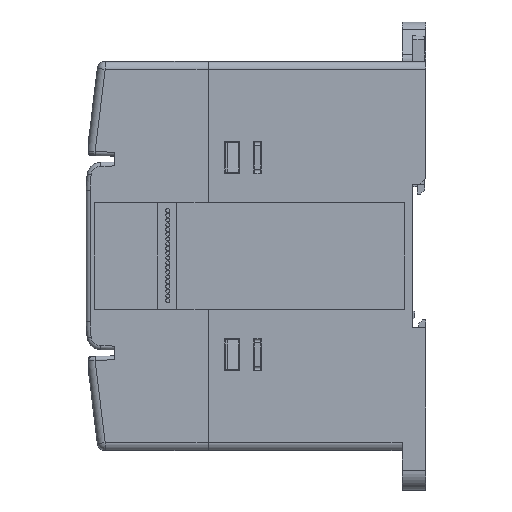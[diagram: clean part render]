
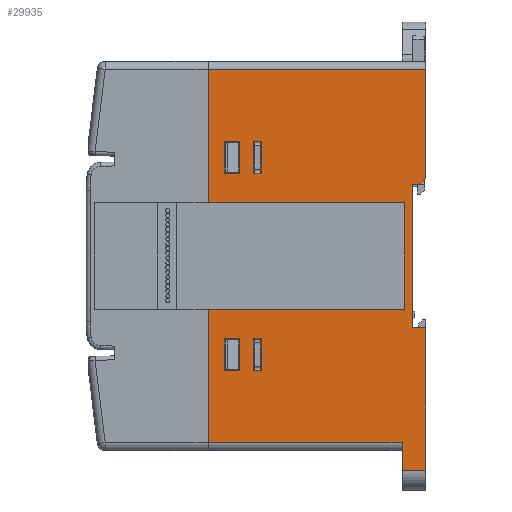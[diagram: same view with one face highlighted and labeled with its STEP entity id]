
A CAD part, left-side view. The second image highlights one B-rep face of the part: STEP entity #29935.
In plain terms, the highlighted planar face has unit normal (-1, 0, 0).
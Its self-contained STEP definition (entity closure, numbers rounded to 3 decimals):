
#50=DIRECTION('',(0.,0.,1.));
#51=VECTOR('',#50,33.75);
#52=CARTESIAN_POINT('',(-32.,51.7,-47.25));
#53=LINE('',#52,#51);
#86=DIRECTION('',(0.,0.,1.));
#87=VECTOR('',#86,33.75);
#88=CARTESIAN_POINT('',(-32.,51.7,13.5));
#89=LINE('',#88,#87);
#2996=DIRECTION('',(0.,-1.,0.));
#2997=VECTOR('',#2996,1.8);
#2998=CARTESIAN_POINT('',(-32.,0.,18.15));
#2999=LINE('',#2998,#2997);
#3623=DIRECTION('',(0.,0.,-1.));
#3624=VECTOR('',#3623,27.6);
#3625=CARTESIAN_POINT('',(-32.,-3.3,47.25));
#3626=LINE('',#3625,#3624);
#3956=DIRECTION('',(0.,-1.,0.));
#3957=VECTOR('',#3956,3.8);
#3958=CARTESIAN_POINT('',(-32.,47.55,-29.));
#3959=LINE('',#3958,#3957);
#3960=DIRECTION('',(0.,0.,1.));
#3961=VECTOR('',#3960,8.);
#3962=CARTESIAN_POINT('',(-32.,43.75,-29.));
#3963=LINE('',#3962,#3961);
#3964=DIRECTION('',(0.,1.,0.));
#3965=VECTOR('',#3964,3.8);
#3966=CARTESIAN_POINT('',(-32.,43.75,-21.));
#3967=LINE('',#3966,#3965);
#3968=DIRECTION('',(0.,0.,-1.));
#3969=VECTOR('',#3968,8.);
#3970=CARTESIAN_POINT('',(-32.,47.55,-21.));
#3971=LINE('',#3970,#3969);
#3972=DIRECTION('',(0.,0.,-1.));
#3973=VECTOR('',#3972,8.);
#3974=CARTESIAN_POINT('',(-32.,47.55,29.));
#3975=LINE('',#3974,#3973);
#3976=DIRECTION('',(0.,-1.,0.));
#3977=VECTOR('',#3976,3.8);
#3978=CARTESIAN_POINT('',(-32.,47.55,21.));
#3979=LINE('',#3978,#3977);
#3980=DIRECTION('',(0.,0.,1.));
#3981=VECTOR('',#3980,8.);
#3982=CARTESIAN_POINT('',(-32.,43.75,21.));
#3983=LINE('',#3982,#3981);
#3984=DIRECTION('',(0.,1.,0.));
#3985=VECTOR('',#3984,3.8);
#3986=CARTESIAN_POINT('',(-32.,43.75,29.));
#3987=LINE('',#3986,#3985);
#3988=DIRECTION('',(0.,0.,-1.));
#3989=VECTOR('',#3988,8.);
#3990=CARTESIAN_POINT('',(-32.,38.3,29.));
#3991=LINE('',#3990,#3989);
#3992=DIRECTION('',(0.,-1.,0.));
#3993=VECTOR('',#3992,2.);
#3994=CARTESIAN_POINT('',(-32.,40.3,29.));
#3995=LINE('',#3994,#3993);
#3996=DIRECTION('',(0.,0.,1.));
#3997=VECTOR('',#3996,8.);
#3998=CARTESIAN_POINT('',(-32.,40.3,21.));
#3999=LINE('',#3998,#3997);
#4000=DIRECTION('',(0.,1.,0.));
#4001=VECTOR('',#4000,2.);
#4002=CARTESIAN_POINT('',(-32.,38.3,21.));
#4003=LINE('',#4002,#4001);
#4004=DIRECTION('',(0.,0.,1.));
#4005=VECTOR('',#4004,8.);
#4006=CARTESIAN_POINT('',(-32.,40.3,-29.));
#4007=LINE('',#4006,#4005);
#4008=DIRECTION('',(0.,1.,0.));
#4009=VECTOR('',#4008,2.);
#4010=CARTESIAN_POINT('',(-32.,38.3,-29.));
#4011=LINE('',#4010,#4009);
#4012=DIRECTION('',(0.,0.,-1.));
#4013=VECTOR('',#4012,8.);
#4014=CARTESIAN_POINT('',(-32.,38.3,-21.));
#4015=LINE('',#4014,#4013);
#4016=DIRECTION('',(0.,-1.,0.));
#4017=VECTOR('',#4016,2.);
#4018=CARTESIAN_POINT('',(-32.,40.3,-21.));
#4019=LINE('',#4018,#4017);
#4020=DIRECTION('',(0.,-0.707,0.707));
#4021=VECTOR('',#4020,2.121);
#4022=CARTESIAN_POINT('',(-32.,-1.8,18.15));
#4023=LINE('',#4022,#4021);
#4024=DIRECTION('',(0.,0.,-1.));
#4025=VECTOR('',#4024,36.3);
#4026=CARTESIAN_POINT('',(-32.,0.,18.15));
#4027=LINE('',#4026,#4025);
#4028=DIRECTION('',(0.,-1.,0.));
#4029=VECTOR('',#4028,3.3);
#4030=CARTESIAN_POINT('',(-32.,0.,-18.15));
#4031=LINE('',#4030,#4029);
#4032=DIRECTION('',(0.,0.,-1.));
#4033=VECTOR('',#4032,36.1);
#4034=CARTESIAN_POINT('',(-32.,-3.3,-18.15));
#4035=LINE('',#4034,#4033);
#4036=DIRECTION('',(0.,-1.,0.));
#4037=VECTOR('',#4036,49.);
#4038=CARTESIAN_POINT('',(-32.,51.7,-47.25));
#4039=LINE('',#4038,#4037);
#4040=DIRECTION('',(0.,-1.,0.));
#4041=VECTOR('',#4040,49.7);
#4042=CARTESIAN_POINT('',(-32.,51.7,-13.5));
#4043=LINE('',#4042,#4041);
#4044=DIRECTION('',(0.,0.,1.));
#4045=VECTOR('',#4044,27.);
#4046=CARTESIAN_POINT('',(-32.,2.,-13.5));
#4047=LINE('',#4046,#4045);
#4048=DIRECTION('',(0.,-1.,0.));
#4049=VECTOR('',#4048,49.7);
#4050=CARTESIAN_POINT('',(-32.,51.7,13.5));
#4051=LINE('',#4050,#4049);
#4052=DIRECTION('',(0.,-1.,0.));
#4053=VECTOR('',#4052,55.);
#4054=CARTESIAN_POINT('',(-32.,51.7,47.25));
#4055=LINE('',#4054,#4053);
#7423=DIRECTION('',(0.,-1.,0.));
#7424=VECTOR('',#7423,6.);
#7425=CARTESIAN_POINT('',(-32.,2.7,-54.25));
#7426=LINE('',#7425,#7424);
#7466=DIRECTION('',(0.,0.,-1.));
#7467=VECTOR('',#7466,7.);
#7468=CARTESIAN_POINT('',(-32.,2.7,-47.25));
#7469=LINE('',#7468,#7467);
#19977=CARTESIAN_POINT('',(-32.,51.7,-47.25));
#19978=VERTEX_POINT('',#19977);
#19979=CARTESIAN_POINT('',(-32.,2.7,-47.25));
#19980=VERTEX_POINT('',#19979);
#19985=CARTESIAN_POINT('',(-32.,51.7,47.25));
#19987=VERTEX_POINT('',#19985);
#20018=CARTESIAN_POINT('',(-32.,2.7,-54.25));
#20020=VERTEX_POINT('',#20018);
#20022=CARTESIAN_POINT('',(-32.,-3.3,47.25));
#20024=VERTEX_POINT('',#20022);
#20047=CARTESIAN_POINT('',(-32.,0.,18.15));
#20048=CARTESIAN_POINT('',(-32.,0.,-18.15));
#20049=VERTEX_POINT('',#20047);
#20050=VERTEX_POINT('',#20048);
#20063=CARTESIAN_POINT('',(-32.,-3.3,-18.15));
#20064=VERTEX_POINT('',#20063);
#20081=CARTESIAN_POINT('',(-32.,-3.3,-54.25));
#20083=VERTEX_POINT('',#20081);
#20401=CARTESIAN_POINT('',(-32.,47.55,-29.));
#20402=CARTESIAN_POINT('',(-32.,43.75,-29.));
#20403=VERTEX_POINT('',#20401);
#20404=VERTEX_POINT('',#20402);
#20405=CARTESIAN_POINT('',(-32.,43.75,-21.));
#20406=VERTEX_POINT('',#20405);
#20407=CARTESIAN_POINT('',(-32.,47.55,-21.));
#20408=VERTEX_POINT('',#20407);
#20409=CARTESIAN_POINT('',(-32.,47.55,29.));
#20410=CARTESIAN_POINT('',(-32.,47.55,21.));
#20411=VERTEX_POINT('',#20409);
#20412=VERTEX_POINT('',#20410);
#20413=CARTESIAN_POINT('',(-32.,43.75,21.));
#20414=VERTEX_POINT('',#20413);
#20415=CARTESIAN_POINT('',(-32.,43.75,29.));
#20416=VERTEX_POINT('',#20415);
#20537=CARTESIAN_POINT('',(-32.,51.7,13.5));
#20538=CARTESIAN_POINT('',(-32.,2.,13.5));
#20539=VERTEX_POINT('',#20537);
#20540=VERTEX_POINT('',#20538);
#20541=CARTESIAN_POINT('',(-32.,51.7,-13.5));
#20542=CARTESIAN_POINT('',(-32.,2.,-13.5));
#20543=VERTEX_POINT('',#20541);
#20544=VERTEX_POINT('',#20542);
#20545=CARTESIAN_POINT('',(-32.,38.3,29.));
#20546=CARTESIAN_POINT('',(-32.,38.3,21.));
#20547=VERTEX_POINT('',#20545);
#20548=VERTEX_POINT('',#20546);
#20549=CARTESIAN_POINT('',(-32.,40.3,21.));
#20550=VERTEX_POINT('',#20549);
#20551=CARTESIAN_POINT('',(-32.,40.3,29.));
#20552=VERTEX_POINT('',#20551);
#20553=CARTESIAN_POINT('',(-32.,40.3,-29.));
#20554=CARTESIAN_POINT('',(-32.,40.3,-21.));
#20555=VERTEX_POINT('',#20553);
#20556=VERTEX_POINT('',#20554);
#20557=CARTESIAN_POINT('',(-32.,38.3,-21.));
#20558=VERTEX_POINT('',#20557);
#20559=CARTESIAN_POINT('',(-32.,38.3,-29.));
#20560=VERTEX_POINT('',#20559);
#20949=CARTESIAN_POINT('',(-32.,-1.8,18.15));
#20950=VERTEX_POINT('',#20949);
#20951=CARTESIAN_POINT('',(-32.,-3.3,19.65));
#20952=VERTEX_POINT('',#20951);
#29865=CARTESIAN_POINT('',(-32.,0.,-49.25));
#29866=DIRECTION('',(-1.,0.,0.));
#29867=DIRECTION('',(0.,0.,1.));
#29868=AXIS2_PLACEMENT_3D('',#29865,#29866,#29867);
#29869=PLANE('',#29868);
#29871=ORIENTED_EDGE('',*,*,#29870,.F.);
#29872=ORIENTED_EDGE('',*,*,#28964,.F.);
#29873=ORIENTED_EDGE('',*,*,#29167,.T.);
#29875=ORIENTED_EDGE('',*,*,#29874,.T.);
#29876=ORIENTED_EDGE('',*,*,#29385,.T.);
#29878=ORIENTED_EDGE('',*,*,#29877,.F.);
#29880=ORIENTED_EDGE('',*,*,#29879,.F.);
#29882=ORIENTED_EDGE('',*,*,#29881,.F.);
#29883=ORIENTED_EDGE('',*,*,#25803,.T.);
#29885=ORIENTED_EDGE('',*,*,#29884,.T.);
#29887=ORIENTED_EDGE('',*,*,#29886,.T.);
#29889=ORIENTED_EDGE('',*,*,#29888,.F.);
#29890=ORIENTED_EDGE('',*,*,#25819,.T.);
#29892=ORIENTED_EDGE('',*,*,#29891,.T.);
#29893=ORIENTED_EDGE('',*,*,#29564,.T.);
#29894=EDGE_LOOP('',(#29871,#29872,#29873,#29875,#29876,#29878,#29880,#29882,
#29883,#29885,#29887,#29889,#29890,#29892,#29893));
#29895=FACE_OUTER_BOUND('',#29894,.F.);
#29897=ORIENTED_EDGE('',*,*,#29896,.T.);
#29899=ORIENTED_EDGE('',*,*,#29898,.T.);
#29901=ORIENTED_EDGE('',*,*,#29900,.T.);
#29903=ORIENTED_EDGE('',*,*,#29902,.T.);
#29904=EDGE_LOOP('',(#29897,#29899,#29901,#29903));
#29905=FACE_BOUND('',#29904,.F.);
#29906=ORIENTED_EDGE('',*,*,#29839,.F.);
#29908=ORIENTED_EDGE('',*,*,#29907,.F.);
#29910=ORIENTED_EDGE('',*,*,#29909,.F.);
#29912=ORIENTED_EDGE('',*,*,#29911,.F.);
#29913=EDGE_LOOP('',(#29906,#29908,#29910,#29912));
#29914=FACE_BOUND('',#29913,.F.);
#29916=ORIENTED_EDGE('',*,*,#29915,.F.);
#29918=ORIENTED_EDGE('',*,*,#29917,.F.);
#29920=ORIENTED_EDGE('',*,*,#29919,.F.);
#29922=ORIENTED_EDGE('',*,*,#29921,.F.);
#29923=EDGE_LOOP('',(#29916,#29918,#29920,#29922));
#29924=FACE_BOUND('',#29923,.F.);
#29926=ORIENTED_EDGE('',*,*,#29925,.T.);
#29928=ORIENTED_EDGE('',*,*,#29927,.T.);
#29930=ORIENTED_EDGE('',*,*,#29929,.T.);
#29932=ORIENTED_EDGE('',*,*,#29931,.T.);
#29933=EDGE_LOOP('',(#29926,#29928,#29930,#29932));
#29934=FACE_BOUND('',#29933,.F.);
#29935=ADVANCED_FACE('',(#29895,#29905,#29914,#29924,#29934),#29869,.T.);
#25803=EDGE_CURVE('',#19978,#20543,#53,.T.);
#25819=EDGE_CURVE('',#20539,#19987,#89,.T.);
#28964=EDGE_CURVE('',#20049,#20950,#2999,.T.);
#29167=EDGE_CURVE('',#20049,#20050,#4027,.T.);
#29385=EDGE_CURVE('',#20064,#20083,#4035,.T.);
#29564=EDGE_CURVE('',#20024,#20952,#3626,.T.);
#29839=EDGE_CURVE('',#20547,#20548,#3991,.T.);
#29870=EDGE_CURVE('',#20950,#20952,#4023,.T.);
#29874=EDGE_CURVE('',#20050,#20064,#4031,.T.);
#29877=EDGE_CURVE('',#20020,#20083,#7426,.T.);
#29879=EDGE_CURVE('',#19980,#20020,#7469,.T.);
#29881=EDGE_CURVE('',#19978,#19980,#4039,.T.);
#29884=EDGE_CURVE('',#20543,#20544,#4043,.T.);
#29886=EDGE_CURVE('',#20544,#20540,#4047,.T.);
#29888=EDGE_CURVE('',#20539,#20540,#4051,.T.);
#29891=EDGE_CURVE('',#19987,#20024,#4055,.T.);
#29896=EDGE_CURVE('',#20411,#20412,#3975,.T.);
#29898=EDGE_CURVE('',#20412,#20414,#3979,.T.);
#29900=EDGE_CURVE('',#20414,#20416,#3983,.T.);
#29902=EDGE_CURVE('',#20416,#20411,#3987,.T.);
#29907=EDGE_CURVE('',#20552,#20547,#3995,.T.);
#29909=EDGE_CURVE('',#20550,#20552,#3999,.T.);
#29911=EDGE_CURVE('',#20548,#20550,#4003,.T.);
#29915=EDGE_CURVE('',#20555,#20556,#4007,.T.);
#29917=EDGE_CURVE('',#20560,#20555,#4011,.T.);
#29919=EDGE_CURVE('',#20558,#20560,#4015,.T.);
#29921=EDGE_CURVE('',#20556,#20558,#4019,.T.);
#29925=EDGE_CURVE('',#20403,#20404,#3959,.T.);
#29927=EDGE_CURVE('',#20404,#20406,#3963,.T.);
#29929=EDGE_CURVE('',#20406,#20408,#3967,.T.);
#29931=EDGE_CURVE('',#20408,#20403,#3971,.T.);
